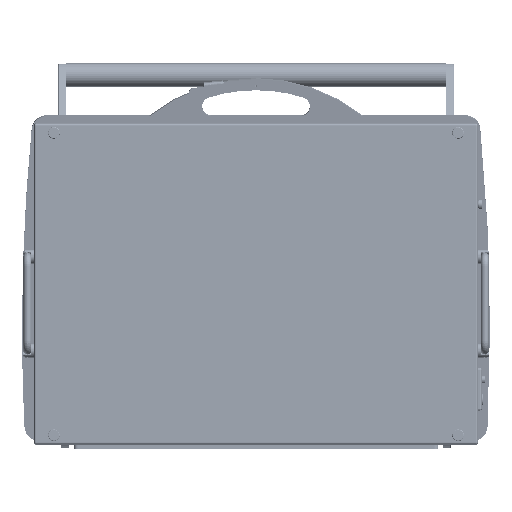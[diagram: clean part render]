
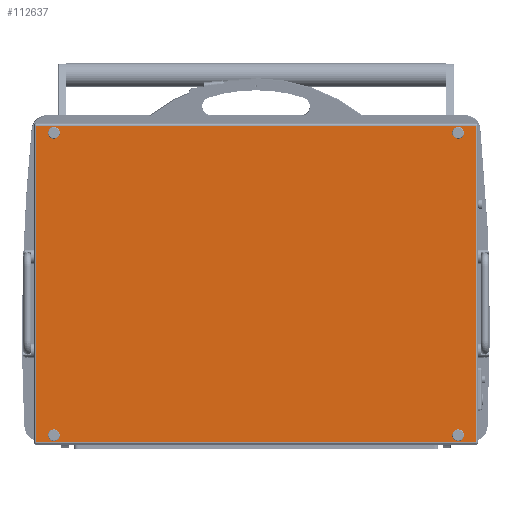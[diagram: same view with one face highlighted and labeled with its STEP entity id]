
A CAD part, front view. The second image highlights one B-rep face of the part: STEP entity #112637.
In plain terms, the highlighted planar face has unit normal (0, -1, 0).
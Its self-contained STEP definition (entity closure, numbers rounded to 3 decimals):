
#335 = EDGE_LOOP ( 'NONE', ( #133929, #59481, #83388, #162158 ) ) ;
#2120 = DIRECTION ( 'NONE',  ( 0., -1., 0. ) ) ;
#2436 = CARTESIAN_POINT ( 'NONE',  ( 258., 0., -193. ) ) ;
#2480 = FACE_OUTER_BOUND ( 'NONE', #335, .T. ) ;
#3764 = AXIS2_PLACEMENT_3D ( 'NONE', #155859, #74999, #169394 ) ;
#3846 = CIRCLE ( 'NONE', #49723, 5.1 ) ;
#5732 = DIRECTION ( 'NONE',  ( -1., 0., 0. ) ) ;
#12483 = LINE ( 'NONE', #45079, #152557 ) ;
#15806 = EDGE_CURVE ( 'NONE', #132162, #161781, #12483, .T. ) ;
#16184 = DIRECTION ( 'NONE',  ( 0., 0., -1. ) ) ;
#16562 = DIRECTION ( 'NONE',  ( 0., -1., 0. ) ) ;
#17317 = CARTESIAN_POINT ( 'NONE',  ( 258., 0., -193. ) ) ;
#18006 = CARTESIAN_POINT ( 'NONE',  ( -281., 0., 202. ) ) ;
#19794 = CARTESIAN_POINT ( 'NONE',  ( -258., 0., 198.1 ) ) ;
#24434 = CARTESIAN_POINT ( 'NONE',  ( 283., 0., 202. ) ) ;
#25069 = VECTOR ( 'NONE', #5732, 1000. ) ;
#26238 = CIRCLE ( 'NONE', #78334, 5.1 ) ;
#29370 = LINE ( 'NONE', #32654, #25069 ) ;
#30445 = EDGE_CURVE ( 'NONE', #66791, #100465, #163826, .T. ) ;
#31055 = DIRECTION ( 'NONE',  ( 0., 0., -1. ) ) ;
#32654 = CARTESIAN_POINT ( 'NONE',  ( 283., 0., 202. ) ) ;
#37584 = CARTESIAN_POINT ( 'NONE',  ( -258., 0., 187.9 ) ) ;
#38218 = PLANE ( 'NONE',  #123993 ) ;
#38286 = EDGE_CURVE ( 'NONE', #110591, #116792, #87586, .T. ) ;
#38875 = FACE_BOUND ( 'NONE', #131336, .T. ) ;
#39779 = ORIENTED_EDGE ( 'NONE', *, *, #47439, .F. ) ;
#39837 = EDGE_CURVE ( 'NONE', #116792, #110591, #3846, .T. ) ;
#43091 = FACE_BOUND ( 'NONE', #65273, .T. ) ;
#44457 = ORIENTED_EDGE ( 'NONE', *, *, #30445, .F. ) ;
#45079 = CARTESIAN_POINT ( 'NONE',  ( 281., 0., 202. ) ) ;
#47408 = FACE_BOUND ( 'NONE', #55989, .T. ) ;
#47439 = EDGE_CURVE ( 'NONE', #100465, #66791, #128878, .T. ) ;
#49723 = AXIS2_PLACEMENT_3D ( 'NONE', #124873, #16562, #124716 ) ;
#50853 = AXIS2_PLACEMENT_3D ( 'NONE', #83856, #2120, #97518 ) ;
#51860 = DIRECTION ( 'NONE',  ( 0., 1., 0. ) ) ;
#53767 = DIRECTION ( 'NONE',  ( -1., 0., 0. ) ) ;
#55874 = VERTEX_POINT ( 'NONE', #72430 ) ;
#55989 = EDGE_LOOP ( 'NONE', ( #127480, #75884 ) ) ;
#57450 = DIRECTION ( 'NONE',  ( 0., 0., -1. ) ) ;
#57497 = DIRECTION ( 'NONE',  ( 0., -1., 0. ) ) ;
#57868 = CARTESIAN_POINT ( 'NONE',  ( -258., 0., 193. ) ) ;
#59481 = ORIENTED_EDGE ( 'NONE', *, *, #100369, .T. ) ;
#60936 = CIRCLE ( 'NONE', #50853, 5.1 ) ;
#64422 = VERTEX_POINT ( 'NONE', #152898 ) ;
#65273 = EDGE_LOOP ( 'NONE', ( #39779, #44457 ) ) ;
#66791 = VERTEX_POINT ( 'NONE', #19794 ) ;
#67607 = ORIENTED_EDGE ( 'NONE', *, *, #90588, .F. ) ;
#68653 = VECTOR ( 'NONE', #144243, 1000. ) ;
#70857 = ORIENTED_EDGE ( 'NONE', *, *, #175379, .F. ) ;
#72430 = CARTESIAN_POINT ( 'NONE',  ( 258., 0., 198.1 ) ) ;
#72982 = LINE ( 'NONE', #157802, #68653 ) ;
#74999 = DIRECTION ( 'NONE',  ( 0., -1., 0. ) ) ;
#75884 = ORIENTED_EDGE ( 'NONE', *, *, #39837, .F. ) ;
#77280 = LINE ( 'NONE', #148522, #113188 ) ;
#78334 = AXIS2_PLACEMENT_3D ( 'NONE', #17317, #112460, #31055 ) ;
#80617 = VERTEX_POINT ( 'NONE', #18006 ) ;
#81468 = CARTESIAN_POINT ( 'NONE',  ( 281., 0., -202. ) ) ;
#82188 = EDGE_CURVE ( 'NONE', #132162, #138689, #77280, .T. ) ;
#83388 = ORIENTED_EDGE ( 'NONE', *, *, #82188, .F. ) ;
#83434 = VERTEX_POINT ( 'NONE', #121594 ) ;
#83856 = CARTESIAN_POINT ( 'NONE',  ( 258., 0., 193. ) ) ;
#85413 = AXIS2_PLACEMENT_3D ( 'NONE', #57868, #57497, #57450 ) ;
#87586 = CIRCLE ( 'NONE', #142642, 5.1 ) ;
#90588 = EDGE_CURVE ( 'NONE', #173048, #83434, #96172, .T. ) ;
#93860 = EDGE_CURVE ( 'NONE', #161781, #80617, #29370, .T. ) ;
#95307 = AXIS2_PLACEMENT_3D ( 'NONE', #102601, #102446, #102287 ) ;
#95537 = AXIS2_PLACEMENT_3D ( 'NONE', #2436, #97847, #16184 ) ;
#96172 = CIRCLE ( 'NONE', #95537, 5.1 ) ;
#96692 = DIRECTION ( 'NONE',  ( 0., 0., 1. ) ) ;
#97518 = DIRECTION ( 'NONE',  ( 0., 0., -1. ) ) ;
#97847 = DIRECTION ( 'NONE',  ( 0., -1., 0. ) ) ;
#100369 = EDGE_CURVE ( 'NONE', #80617, #138689, #72982, .T. ) ;
#100465 = VERTEX_POINT ( 'NONE', #37584 ) ;
#102012 = CARTESIAN_POINT ( 'NONE',  ( -281., 0., -202. ) ) ;
#102287 = DIRECTION ( 'NONE',  ( 0., 0., -1. ) ) ;
#102446 = DIRECTION ( 'NONE',  ( 0., -1., 0. ) ) ;
#102601 = CARTESIAN_POINT ( 'NONE',  ( -258., 0., 193. ) ) ;
#104906 = DIRECTION ( 'NONE',  ( 0., 0., -1. ) ) ;
#105085 = DIRECTION ( 'NONE',  ( 0., -1., 0. ) ) ;
#105301 = CARTESIAN_POINT ( 'NONE',  ( -258., 0., -193. ) ) ;
#109359 = CIRCLE ( 'NONE', #3764, 5.1 ) ;
#110591 = VERTEX_POINT ( 'NONE', #146271 ) ;
#112460 = DIRECTION ( 'NONE',  ( 0., -1., 0. ) ) ;
#112637 = ADVANCED_FACE ( 'NONE', ( #151169, #47408, #43091, #38875, #2480 ), #38218, .F. ) ;
#113188 = VECTOR ( 'NONE', #53767, 1000. ) ;
#113622 = ORIENTED_EDGE ( 'NONE', *, *, #166955, .F. ) ;
#116792 = VERTEX_POINT ( 'NONE', #157363 ) ;
#121594 = CARTESIAN_POINT ( 'NONE',  ( 258., 0., -187.9 ) ) ;
#123993 = AXIS2_PLACEMENT_3D ( 'NONE', #24434, #51860, #146605 ) ;
#124716 = DIRECTION ( 'NONE',  ( 0., 0., -1. ) ) ;
#124873 = CARTESIAN_POINT ( 'NONE',  ( -258., 0., -193. ) ) ;
#125187 = CARTESIAN_POINT ( 'NONE',  ( 281., 0., 202. ) ) ;
#127480 = ORIENTED_EDGE ( 'NONE', *, *, #38286, .F. ) ;
#128878 = CIRCLE ( 'NONE', #85413, 5.1 ) ;
#128976 = ORIENTED_EDGE ( 'NONE', *, *, #161742, .F. ) ;
#131336 = EDGE_LOOP ( 'NONE', ( #70857, #128976 ) ) ;
#132162 = VERTEX_POINT ( 'NONE', #81468 ) ;
#133929 = ORIENTED_EDGE ( 'NONE', *, *, #93860, .T. ) ;
#138689 = VERTEX_POINT ( 'NONE', #102012 ) ;
#142642 = AXIS2_PLACEMENT_3D ( 'NONE', #105301, #105085, #104906 ) ;
#144243 = DIRECTION ( 'NONE',  ( 0., 0., -1. ) ) ;
#146271 = CARTESIAN_POINT ( 'NONE',  ( -258., 0., -198.1 ) ) ;
#146605 = DIRECTION ( 'NONE',  ( 0., 0., 1. ) ) ;
#148522 = CARTESIAN_POINT ( 'NONE',  ( 283., 0., -202. ) ) ;
#151169 = FACE_BOUND ( 'NONE', #156955, .T. ) ;
#152557 = VECTOR ( 'NONE', #96692, 1000. ) ;
#152898 = CARTESIAN_POINT ( 'NONE',  ( 258., 0., 187.9 ) ) ;
#155859 = CARTESIAN_POINT ( 'NONE',  ( 258., 0., 193. ) ) ;
#156955 = EDGE_LOOP ( 'NONE', ( #67607, #113622 ) ) ;
#157363 = CARTESIAN_POINT ( 'NONE',  ( -258., 0., -187.9 ) ) ;
#157802 = CARTESIAN_POINT ( 'NONE',  ( -281., 0., 202. ) ) ;
#161742 = EDGE_CURVE ( 'NONE', #55874, #64422, #60936, .T. ) ;
#161781 = VERTEX_POINT ( 'NONE', #125187 ) ;
#162158 = ORIENTED_EDGE ( 'NONE', *, *, #15806, .T. ) ;
#163826 = CIRCLE ( 'NONE', #95307, 5.1 ) ;
#166107 = CARTESIAN_POINT ( 'NONE',  ( 258., 0., -198.1 ) ) ;
#166955 = EDGE_CURVE ( 'NONE', #83434, #173048, #26238, .T. ) ;
#169394 = DIRECTION ( 'NONE',  ( 0., 0., -1. ) ) ;
#173048 = VERTEX_POINT ( 'NONE', #166107 ) ;
#175379 = EDGE_CURVE ( 'NONE', #64422, #55874, #109359, .T. ) ;
